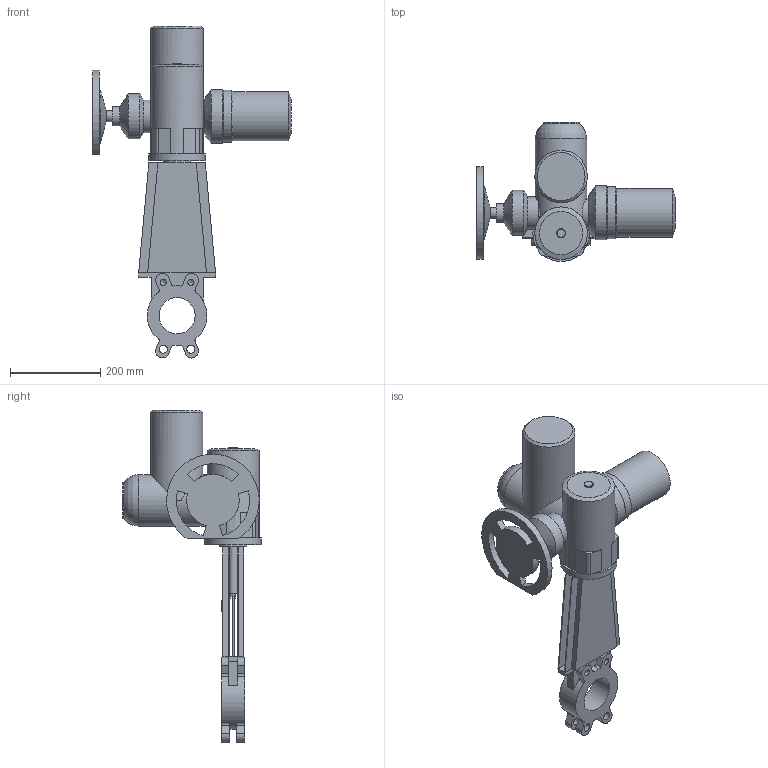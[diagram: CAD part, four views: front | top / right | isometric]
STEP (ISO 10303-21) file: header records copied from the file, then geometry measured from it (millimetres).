
FILE_DESCRIPTION(('STEP AP203'), '1');
FILE_NAME('K21GVA_DN80+MT903.A 07', '', ('UNSPECIFIED'), ('UNSPECIFIED'), 'ASCON STEP Converter 1.6', 'ASCON Math Kernel', '');
FILE_SCHEMA(('CONFIG_CONTROL_DESIGN'));
Length unit declared in the file: millimetre
Bounding box: 440 x 307.5 x 734.54 mm (x, y, z)
Volume: 9424468.2 mm3; surface area: 691640.4 mm2
Topology: 1 solids, 1 shells, 236 faces, 628 edges, 401 vertices
Faces by surface type: plane 139, cylinder 82, cone 14, torus 1
Full cylindrical faces by diameter (mm): 8.5 x4, 12 x4, 13.835 x4, 18 x4, 20 x2, 24 x1, 42 x1, 60 x1, 66 x1, 72 x1, 80 x2, 100 x1, 108 x1, 114 x1, 115 x1, 116 x2, 119 x1, 125 x1
Entity records: 10082 total; most frequent: CARTESIAN_POINT 2346, DIRECTION 1228, ORIENTED_EDGE 1150, EDGE_CURVE 575, AXIS2_PLACEMENT_3D 443, VERTEX_POINT 397, LINE 342, VECTOR 342
